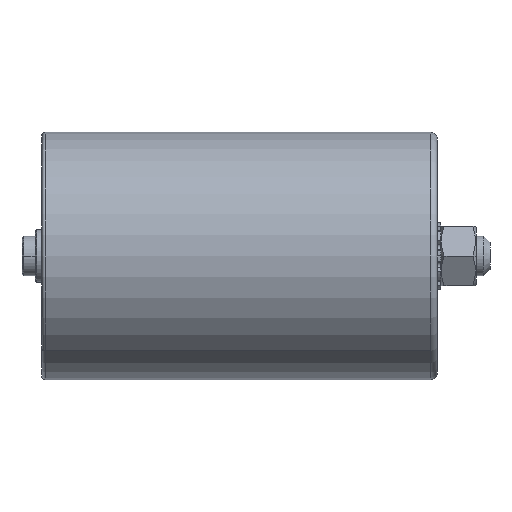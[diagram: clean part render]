
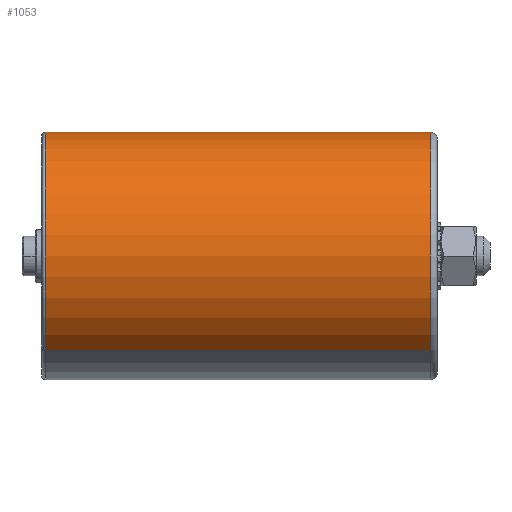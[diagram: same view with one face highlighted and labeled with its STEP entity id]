
A CAD part, left-side view. The second image highlights one B-rep face of the part: STEP entity #1053.
In plain terms, the highlighted cylindrical face has radius 37.5 mm (diameter 75 mm), a partial arc.
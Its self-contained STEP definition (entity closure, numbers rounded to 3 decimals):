
#58 = DIRECTION ( 'NONE',  ( 0.643, 0., 0.766 ) ) ;
#204 = CARTESIAN_POINT ( 'NONE',  ( 0., -109.645, 0. ) ) ;
#330 = CARTESIAN_POINT ( 'NONE',  ( 0., -109.645, 37.5 ) ) ;
#540 = VECTOR ( 'NONE', #3856, 1000. ) ;
#1053 = ADVANCED_FACE ( 'NONE', ( #5583 ), #5189, .T. ) ;
#1143 = CARTESIAN_POINT ( 'NONE',  ( 0., 7.355, 0. ) ) ;
#1204 = VERTEX_POINT ( 'NONE', #330 ) ;
#1491 = DIRECTION ( 'NONE',  ( 0., 1., 0. ) ) ;
#1660 = CARTESIAN_POINT ( 'NONE',  ( 0., -109.645, 0. ) ) ;
#2184 = DIRECTION ( 'NONE',  ( 0., 0., -1. ) ) ;
#2529 = EDGE_CURVE ( 'NONE', #3835, #7111, #4101, .T. ) ;
#2536 = LINE ( 'NONE', #5106, #3046 ) ;
#2571 = EDGE_CURVE ( 'NONE', #8235, #7111, #2865, .T. ) ;
#2865 = CIRCLE ( 'NONE', #3289, 37.5 ) ;
#3046 = VECTOR ( 'NONE', #5129, 1000. ) ;
#3201 = CARTESIAN_POINT ( 'NONE',  ( -24.105, -1.645, -28.727 ) ) ;
#3289 = AXIS2_PLACEMENT_3D ( 'NONE', #1143, #5665, #5983 ) ;
#3835 = VERTEX_POINT ( 'NONE', #7166 ) ;
#3856 = DIRECTION ( 'NONE',  ( 0., 1., 0. ) ) ;
#3923 = ORIENTED_EDGE ( 'NONE', *, *, #2571, .T. ) ;
#3962 = CARTESIAN_POINT ( 'NONE',  ( 24.105, -109.645, 28.727 ) ) ;
#4101 = LINE ( 'NONE', #3201, #540 ) ;
#4392 = AXIS2_PLACEMENT_3D ( 'NONE', #1660, #6253, #2184 ) ;
#4658 = DIRECTION ( 'NONE',  ( 0., 1., 0. ) ) ;
#4927 = CARTESIAN_POINT ( 'NONE',  ( -24.105, 7.355, -28.727 ) ) ;
#4931 = CIRCLE ( 'NONE', #5412, 37.5 ) ;
#5064 = ORIENTED_EDGE ( 'NONE', *, *, #6958, .T. ) ;
#5106 = CARTESIAN_POINT ( 'NONE',  ( 24.105, -1.645, 28.727 ) ) ;
#5127 = ORIENTED_EDGE ( 'NONE', *, *, #2529, .F. ) ;
#5129 = DIRECTION ( 'NONE',  ( 0., 1., 0. ) ) ;
#5189 = CYLINDRICAL_SURFACE ( 'NONE', #5812, 37.5 ) ;
#5212 = EDGE_CURVE ( 'NONE', #5347, #8235, #2536, .T. ) ;
#5347 = VERTEX_POINT ( 'NONE', #3962 ) ;
#5412 = AXIS2_PLACEMENT_3D ( 'NONE', #204, #1491, #7375 ) ;
#5583 = FACE_OUTER_BOUND ( 'NONE', #8182, .T. ) ;
#5665 = DIRECTION ( 'NONE',  ( 0., -1., 0. ) ) ;
#5812 = AXIS2_PLACEMENT_3D ( 'NONE', #7841, #4658, #58 ) ;
#5824 = CARTESIAN_POINT ( 'NONE',  ( 24.105, 7.355, 28.727 ) ) ;
#5983 = DIRECTION ( 'NONE',  ( -0.643, 0., -0.766 ) ) ;
#6253 = DIRECTION ( 'NONE',  ( 0., 1., 0. ) ) ;
#6555 = ORIENTED_EDGE ( 'NONE', *, *, #6578, .T. ) ;
#6578 = EDGE_CURVE ( 'NONE', #1204, #5347, #6930, .T. ) ;
#6921 = ORIENTED_EDGE ( 'NONE', *, *, #5212, .T. ) ;
#6930 = CIRCLE ( 'NONE', #4392, 37.5 ) ;
#6958 = EDGE_CURVE ( 'NONE', #3835, #1204, #4931, .T. ) ;
#7111 = VERTEX_POINT ( 'NONE', #4927 ) ;
#7166 = CARTESIAN_POINT ( 'NONE',  ( -24.105, -109.645, -28.727 ) ) ;
#7375 = DIRECTION ( 'NONE',  ( 0., 0., -1. ) ) ;
#7841 = CARTESIAN_POINT ( 'NONE',  ( 0., -1.645, 0. ) ) ;
#8182 = EDGE_LOOP ( 'NONE', ( #5127, #5064, #6555, #6921, #3923 ) ) ;
#8235 = VERTEX_POINT ( 'NONE', #5824 ) ;
